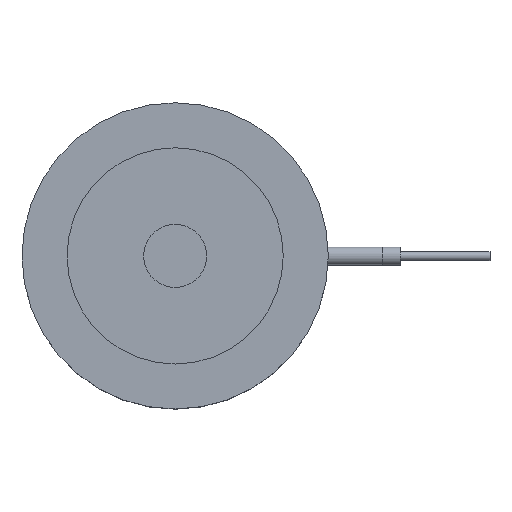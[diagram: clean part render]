
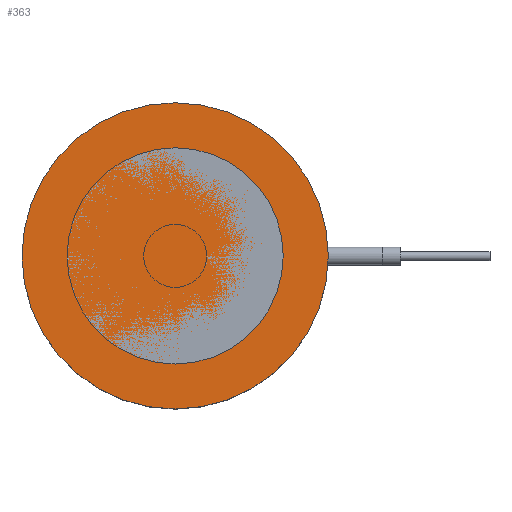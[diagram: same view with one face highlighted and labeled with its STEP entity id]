
A CAD part, top view. The second image highlights one B-rep face of the part: STEP entity #363.
In plain terms, the highlighted planar face has unit normal (0, 0, 1).
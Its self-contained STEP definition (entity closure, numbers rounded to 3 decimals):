
#363=ADVANCED_FACE('',(#456),#402,.F.);
#402=PLANE('',#1216);
#456=FACE_OUTER_BOUND('',#577,.T.);
#577=EDGE_LOOP('',(#793));
#793=ORIENTED_EDGE('',*,*,#996,.F.);
#887=VERTEX_POINT('',#1921);
#996=EDGE_CURVE('',#887,#887,#1068,.T.);
#1068=CIRCLE('',#1215,17.);
#1215=AXIS2_PLACEMENT_3D('',#1920,#1538,#1539);
#1216=AXIS2_PLACEMENT_3D('',#1922,#1540,#1541);
#1538=DIRECTION('',(0.,0.,-1.));
#1539=DIRECTION('',(-1.,0.,0.));
#1540=DIRECTION('',(0.,0.,-1.));
#1541=DIRECTION('',(-1.,0.,0.));
#1920=CARTESIAN_POINT('',(0.,0.,0.));
#1921=CARTESIAN_POINT('',(-17.,0.,0.));
#1922=CARTESIAN_POINT('',(0.,0.,0.));
